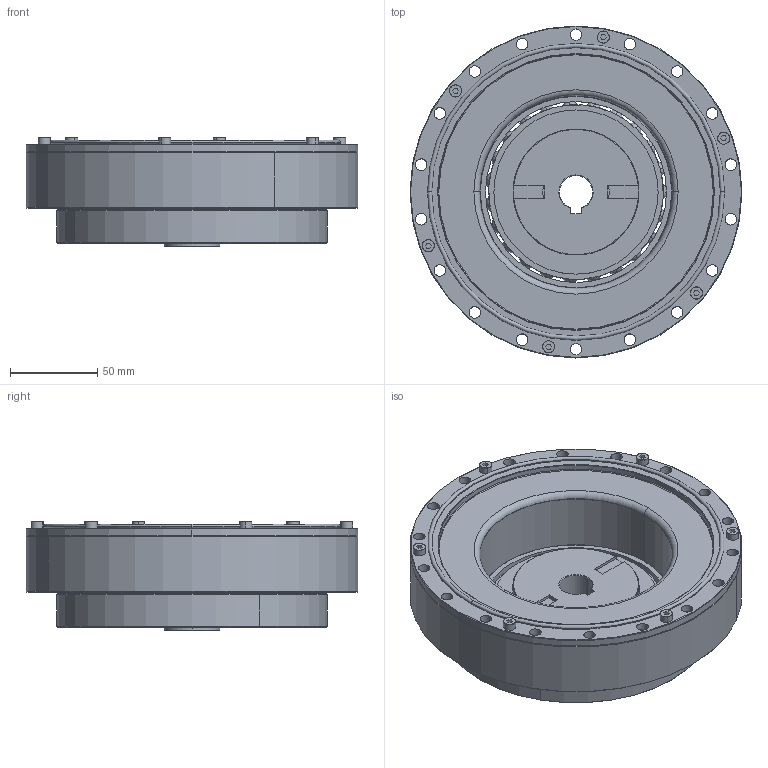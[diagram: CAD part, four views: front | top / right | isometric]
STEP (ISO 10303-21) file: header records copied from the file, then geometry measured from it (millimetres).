
FILE_DESCRIPTION (( 'STEP AP203' ), '1' );
FILE_NAME ('FHG-45-XXX-SO.STEP', '2023-01-30T03:01:41', ( '微软用户' ), ( '微软中国' ), 'SwSTEP 2.0', 'SolidWorks 2016', '' );
FILE_SCHEMA (( 'CONFIG_CONTROL_DESIGN' ));
Length unit declared in the file: millimetre
Products named in the file (1): FHG-45-XXX-SO
Bounding box: 190 x 190 x 62.5 mm (x, y, z)
Volume: 825800 mm3; surface area: 358426.2 mm2
Topology: 50 solids, 50 shells, 900 faces, 2218 edges, 1388 vertices
Faces by surface type: cylinder 388, plane 235, cone 145, torus 86, sphere 46
Entity records: 26077 total; most frequent: DIRECTION 5024, CARTESIAN_POINT 4363, ORIENTED_EDGE 4118, AXIS2_PLACEMENT_3D 2092, EDGE_CURVE 2059, VERTEX_POINT 1319, CIRCLE 1191, EDGE_LOOP 1112
